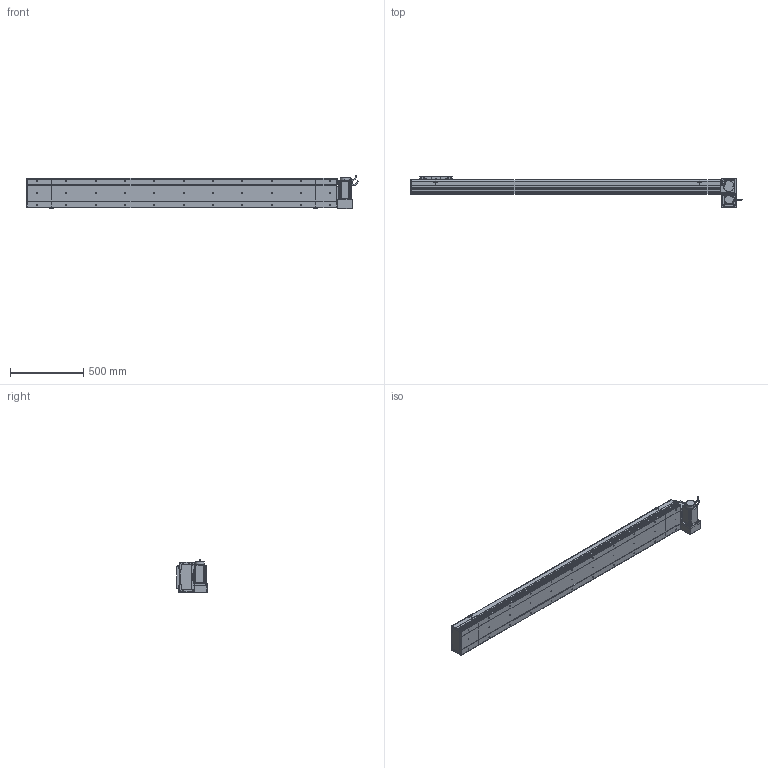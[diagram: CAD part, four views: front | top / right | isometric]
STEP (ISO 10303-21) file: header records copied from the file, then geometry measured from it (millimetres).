
FILE_DESCRIPTION (( 'STEP AP214' ), '1' );
FILE_NAME ('D20 CBH RU S1800.STEP', '2010-06-30T09:43:40', ( 'Conseil Régional Haute-Normandie' ), ( 'Conseil Régional Haute-Normandie' ), 'SwSTEP 2.0', 'SolidWorks 2010', '' );
FILE_SCHEMA (( 'AUTOMOTIVE_DESIGN' ));
Length unit declared in the file: millimetre
Products named in the file (31): Support moteur RU_Default; Support Chariot D20_Default; Plaque de Bout Head D20 RU_Default; Corp Tail D20 RU_Default; Chariot D20_Default; Plaque De Serrage D20_Default; Plaque de Bout Tail D20_Default; Couvercle_Default; Corp Tail D20_Default; Couvercle RU_Default; Plaque De Serrage D20 RU_Default; Tail D20_Default; Couvercle S1800_Default; Corp S1800_Default; Rondelle Cache D20 RU_Default; Corp D20 S1800_Default; vis M5 L15_Default; Cache Support Moteur RU_Default; codeur 90BLDC125-640; avant 90BLDC125A-640; Moteur motionking 90BLDC125A-640; corps 90BLDC125A-640; vis M5 L47_Default; ecrou_Default; vis M5 L30_Default; Conecteur_Default; Conecteur2_Default; Glissiere_Default; Head RU_Default; D20 CBH RU S1800
Assembly tree (66 placements, depth 4):
  D20 CBH RU S1800
    Head RU_Default
      vis M5 L15_Default  x12
      Rondelle Cache D20 RU_Default  x3
      Cache Support Moteur RU_Default
      vis M5 L30_Default  x4
      Plaque De Serrage D20 RU_Default
      ecrou_Default  x4
      Corp Tail D20 RU_Default
      Support moteur RU_Default
      Moteur motionking 90BLDC125A-640
        Conecteur_Default
        Conecteur2_Default
        corps 90BLDC125A-640
        avant 90BLDC125A-640
        codeur 90BLDC125-640
      Plaque de Bout Head D20 RU_Default
      vis M5 L47_Default  x4
      Couvercle RU_Default
    Corp D20 S1800_Default
      Couvercle S1800_Default
      Corp S1800_Default
    Tail D20_Default
      vis M5 L15_Default  x6
      Plaque De Serrage D20_Default
      Plaque de Bout Tail D20_Default
      Couvercle_Default
      Corp Tail D20_Default
    Chariot D20_Default
      Glissiere_Default
      Chariot D20_Default
      vis M5 L15_Default  x8
      Support Chariot D20_Default
Bounding box: 2264.45 x 209 x 229.7 mm (x, y, z)
Volume: 15660385.7 mm3; surface area: 3075129.9 mm2
Topology: 103 solids, 103 shells, 3760 faces, 9380 edges, 6094 vertices
Faces by surface type: plane 2093, bspline 806, cylinder 698, torus 91, cone 68, sphere 4
Entity records: 159166 total; most frequent: CARTESIAN_POINT 82272, ORIENTED_EDGE 15228, DIRECTION 11562, EDGE_CURVE 7614, VERTEX_POINT 5038, VECTOR 4930, LINE 4930, AXIS2_PLACEMENT_3D 3316
